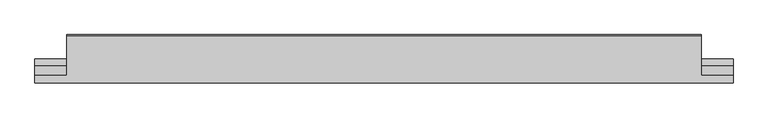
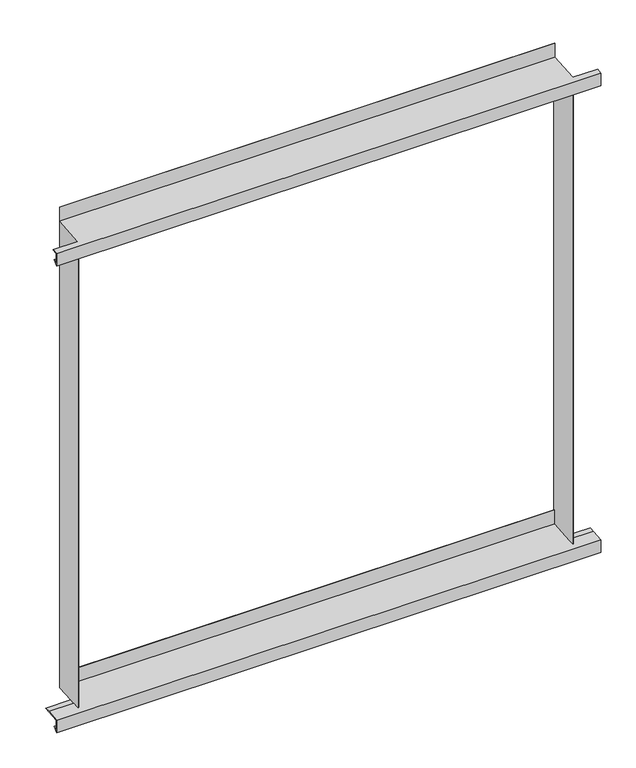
"""IFC4 building model written with IfcOpenShell, lengths in millimetres: plate geometry, ATELIERS 3S_GLACE_Entourage de baie : ATELIERS 3S_GLACE_Entourage de baie."""

from ifc_helpers import new_model, si_unit, origin, place, context, project, spatial, faceted_brep, source, transform, mapped, element, save


def plate_36baf00b(model_context):
    return source(origin(), model_context, "Body", "Brep", [
        faceted_brep([(550.0, -75.0, -3.2370806), (550.0, -38.0, 0.0), (550.0, -49.4737132, 0.0), (550.0, -76.0, -2.3207494), (550.0, -76.0, -29.0836688), (550.0, -67.5147186, -20.5983875), (550.0, -68.22457, -19.8885361), (550.0, -75.0, -26.663966), (550.0, -75.0, 993.4383502), (550.0, -64.0, 994.4007255), (550.0, -64.0, 995.4045454), (550.0, -76.0, 994.3546814), (550.0, -76.0, 967.591762), (550.0, -67.5147186, 976.0770433), (550.0, -68.22457, 976.7868947), (550.0, -75.0, 970.0114648), (-550.0, -76.0, -2.3207494), (-550.0, -49.4737132, 0.0), (-550.0, -38.0, 0.0), (-550.0, -75.0, -3.2370806), (-550.0, -75.0, -26.663966), (-550.0, -68.22457, -19.8885361), (-550.0, -67.5147186, -20.5983875), (-550.0, -76.0, -29.0836688), (-550.0, -76.0, 994.3546814), (-550.0, -64.0, 995.4045454), (-550.0, -64.0, 994.4007255), (-550.0, -75.0, 993.4383502), (-550.0, -75.0, 970.0114648), (-550.0, -68.22457, 976.7868947), (-550.0, -67.5147186, 976.0770433), (-550.0, -76.0, 967.591762), (500.0, 0.0, 1030.0), (500.0, 0.0, 3.3245692), (-500.0, 0.0, 3.3245692), (-500.0, 0.0, 1030.0), (-499.0, 0.0, 33.3245692), (499.0, 0.0, 33.3245692), (499.0, 0.0, 1000.0), (-499.0, 0.0, 1000.0), (-500.0, -38.0, 0.0), (500.0, -38.0, 0.0), (499.0, -1.0, 4.2409004), (499.0, -1.0, 33.3245692), (-499.0, -1.0, 33.3245692), (-499.0, -1.0, 4.2409004), (500.0, -64.0, 995.4045454), (500.0, -1.0, 1000.9163312), (-500.0, -1.0, 1000.9163312), (-500.0, -64.0, 995.4045454), (500.0, -1.0, 1030.0), (-500.0, -1.0, 1030.0), (-500.0, -64.0, 994.4007255), (-500.0, -65.0, 994.3132369), (-499.0, -65.0, 994.3132369), (499.0, -65.0, 994.3132369), (500.0, -65.0, 994.3132369), (500.0, -64.0, 994.4007255), (500.0, -49.4737132, 0.0), (499.0, -49.4737132, 0.0), (-499.0, -49.4737132, 0.0), (-500.0, -49.4737132, 0.0), (500.0, -65.0, 0.0), (-500.0, -65.0, 0.0), (-499.0, -65.0, 0.0), (499.0, -65.0, 0.0)], [[[0, 1, 2, 3, 4, 5, 6, 7]], [[8, 9, 10, 11, 12, 13, 14, 15]], [[16, 17, 18, 19, 20, 21, 22, 23]], [[24, 25, 26, 27, 28, 29, 30, 31]], [[32, 33, 34, 35], [36, 37, 38, 39]], [[19, 18, 40, 34, 33, 41, 1, 0]], [[7, 20, 19, 0]], [[6, 21, 20, 7]], [[5, 22, 21, 6]], [[4, 23, 22, 5]], [[3, 16, 23, 4]], [[42, 43, 44, 45]], [[36, 44, 43, 37]], [[15, 28, 27, 8]], [[14, 29, 28, 15]], [[13, 30, 29, 14]], [[12, 31, 30, 13]], [[11, 24, 31, 12]], [[11, 10, 46, 47, 48, 49, 25, 24]], [[47, 50, 51, 48]], [[50, 32, 35, 51]], [[27, 26, 52, 53, 54, 39, 38, 55, 56, 57, 9, 8]], [[3, 2, 58, 59, 42, 45, 60, 61, 17, 16]], [[41, 33, 32, 50, 47, 46, 57, 56, 62, 58]], [[46, 10, 9, 57]], [[61, 63, 53, 52, 49, 48, 51, 35, 34, 40]], [[52, 26, 25, 49]], [[63, 61, 60, 64]], [[65, 59, 58, 62]], [[64, 54, 53, 63]], [[64, 60, 45, 44, 36, 39, 54]], [[62, 56, 55, 65]], [[55, 38, 37, 43, 42, 59, 65]], [[40, 18, 17, 61]], [[58, 2, 1, 41]]]),
    ])


if __name__ == "__main__":
    model = new_model("IFC4")
    model_context = context("Model", 3, world=origin())
    ifc_project = project(units=[si_unit("LENGTHUNIT", "METRE", prefix="MILLI")], contexts=[model_context])
    site = spatial("IfcSite", under=ifc_project)
    building = spatial("IfcBuilding", under=site)
    placement = place(None, origin())
    plate_shape = plate_36baf00b(model_context)
    element("IfcPlate", 1, ObjectType="ATELIERS 3S_GLACE_Entourage de baie : ATELIERS 3S_GLACE_Entourage de baie", at=placement, inside=building, context=model_context, shape_type="MappedRepresentation", body=[
        mapped(plate_shape, transform((0.0, 0.0, 0.0), x_axis=(1.0, 0.0, 0.0), y_axis=(0.0, 1.0, 0.0), z_axis=(0.0, 0.0, 1.0))),
    ])
    save(model, "model.ifc")
